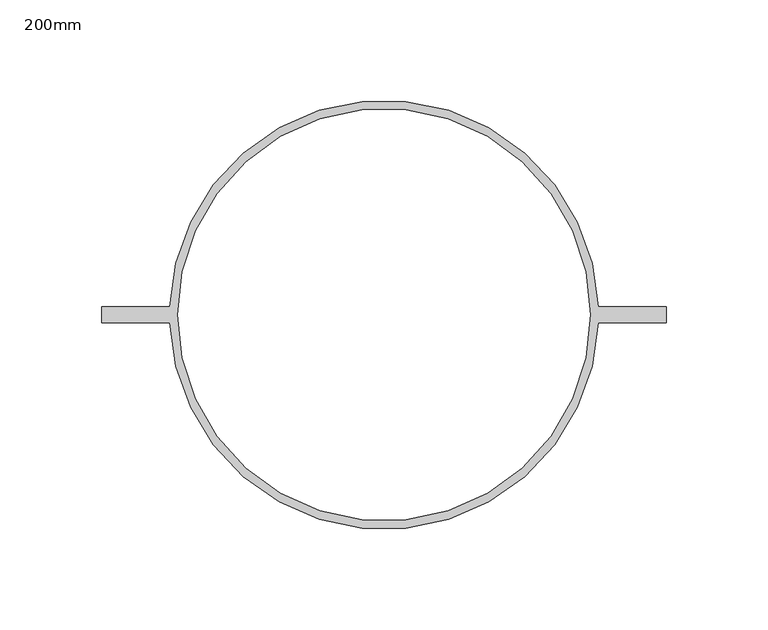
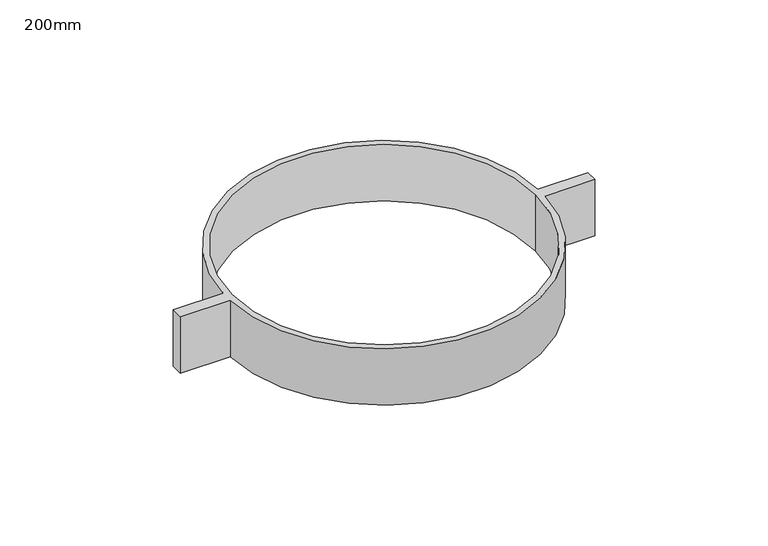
"""IFC4 building model written with IfcOpenShell, lengths in millimetres: pipe fitting geometry, PAVCO_PVC QS Soporte Deslizante Vertical : 200mm."""

from ifc_helpers import new_model, si_unit, point, frame, origin, origin_2d, place, context, project, spatial, polyline, circle_curve, trimmed, segment, composite_curve, outline, extrude, source, transform, mapped, element, save


def pipe_fitting_200mm_2e05b1c7(model_context):
    return source(origin(), model_context, "Body", "SweptSolid", [
        extrude(outline(composite_curve([segment(polyline([(139.0, -4.0), (105.4241433, -4.0)]), True, "CONTINUOUS"), segment(trimmed(circle_curve(origin_2d(), 105.5), [point((105.4241433, -4.0))], [point((-105.4241433, -4.0))], False, "CARTESIAN"), True, "CONTINUOUS"), segment(polyline([(-105.4241433, -4.0), (-139.0, -4.0), (-139.0, 4.0), (-105.4241433, 4.0)]), True, "CONTINUOUS"), segment(trimmed(circle_curve(origin_2d(), 105.5), [point((-105.4241433, 4.0))], [point((105.4241433, 4.0))], False, "CARTESIAN"), True, "CONTINUOUS"), segment(polyline([(105.4241433, 4.0), (139.0, 4.0), (139.0, -4.0)]), True, "CONTINUOUS")], self_intersect=False), holes=[composite_curve([segment(trimmed(circle_curve(origin_2d(), 101.5), [point((-101.5, 0.0))], [point((101.5, 0.0))], True, "CARTESIAN"), True, "CONTINUOUS"), segment(trimmed(circle_curve(origin_2d(), 101.5), [point((101.5, 0.0))], [point((-101.5, 0.0))], True, "CARTESIAN"), True, "CONTINUOUS")], self_intersect=False)]), frame((0.0, 0.0, -20.0), z_axis=(0.0, 0.0, 1.0), x_axis=(1.0, 0.0, 0.0)), (0.0, 0.0, 1.0), 40.0),
    ])


if __name__ == "__main__":
    model = new_model("IFC4")
    model_context = context("Model", 3, world=origin())
    ifc_project = project(units=[si_unit("LENGTHUNIT", "METRE", prefix="MILLI")], contexts=[model_context])
    site = spatial("IfcSite", under=ifc_project)
    building = spatial("IfcBuilding", under=site)
    placement = place(None, origin())
    pipe_fitting_200mm_shape = pipe_fitting_200mm_2e05b1c7(model_context)
    element("IfcPipeFitting", 1, ObjectType="PAVCO_PVC QS Soporte Deslizante Vertical : 200mm", at=placement, inside=building, context=model_context, shape_type="MappedRepresentation", body=[
        mapped(pipe_fitting_200mm_shape, transform((0.0, 0.0, 0.0), x_axis=(1.0, 0.0, 0.0), y_axis=(0.0, 1.0, 0.0), z_axis=(0.0, 0.0, 1.0))),
    ])
    save(model, "model.ifc")
